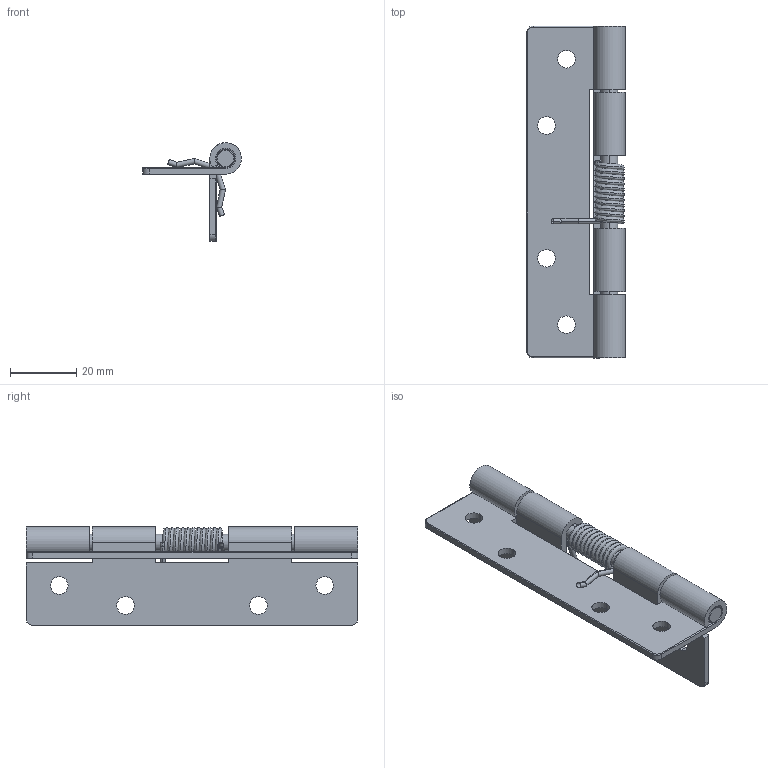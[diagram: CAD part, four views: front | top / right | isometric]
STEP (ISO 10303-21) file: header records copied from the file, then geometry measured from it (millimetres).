
FILE_DESCRIPTION (( 'STEP AP203' ), '1' );
FILE_NAME ('DEH-56S-3.STEP', '2013-08-29T12:30:47', ( '中村　妙子' ), ( 'ＮＴ設計' ), 'SwSTEP 2.0', 'SolidWorks 2002296', '' );
FILE_SCHEMA (( 'CONFIG_CONTROL_DESIGN' ));
Length unit declared in the file: millimetre
Products named in the file (5): DEH-56S-3; DEH-56S-3-1_蹬怮椔; DEH-56S-3-2_蹬怮椔; DEH-56S-3-3_蹬怮椔; DEH-56S-3-4_蹬怮椔
Assembly tree (4 placements, depth 2):
  DEH-56S-3
    DEH-56S-3-4_蹬怮椔
    DEH-56S-3-3_蹬怮椔
    DEH-56S-3-1_蹬怮椔
    DEH-56S-3-2_蹬怮椔
Bounding box: 29.75 x 100 x 29.75 mm (x, y, z)
Volume: 1963.5 mm3; surface area: 16022.1 mm2
Topology: 1 solids, 7 shells, 92 faces, 230 edges, 146 vertices
Faces by surface type: cylinder 50, plane 28, torus 12, bspline 2
Entity records: 6838 total; most frequent: CARTESIAN_POINT 4050, DIRECTION 518, ORIENTED_EDGE 448, EDGE_CURVE 230, AXIS2_PLACEMENT_3D 204, VERTEX_POINT 146, LINE 110, VECTOR 110
